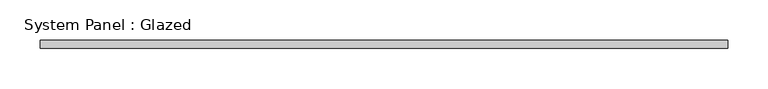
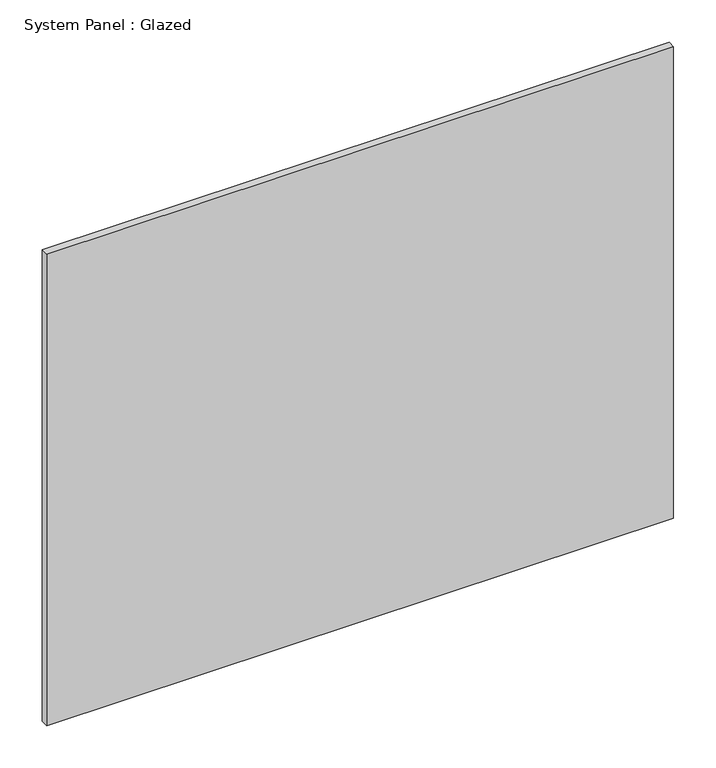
"""IFC4 building model written with IfcOpenShell, lengths in millimetres: plate geometry, System Panel : Glazed."""

from ifc_helpers import new_model, si_unit, origin, origin_with_axes, place, context, project, spatial, polyline, outline, extrude, source, transform, mapped, element, save


def system_panel_glazed_db34575f(model_context):
    return source(origin(), model_context, "Body", "SweptSolid", [
        extrude(outline(polyline([(427.5, -5.0), (-427.5, -5.0), (-427.5, 5.0), (427.5, 5.0), (427.5, -5.0)])), origin_with_axes(), (0.0, 0.0, 1.0), 680.0),
    ])


if __name__ == "__main__":
    model = new_model("IFC4")
    model_context = context("Model", 3, world=origin())
    ifc_project = project(units=[si_unit("LENGTHUNIT", "METRE", prefix="MILLI")], contexts=[model_context])
    site = spatial("IfcSite", under=ifc_project)
    building = spatial("IfcBuilding", under=site)
    placement = place(None, origin())
    system_panel_glazed_shape = system_panel_glazed_db34575f(model_context)
    element("IfcPlate", 1, ObjectType="System Panel : Glazed", at=placement, inside=building, context=model_context, shape_type="MappedRepresentation", body=[
        mapped(system_panel_glazed_shape, transform((0.0, 0.0, 0.0), x_axis=(1.0, 0.0, 0.0), y_axis=(0.0, 1.0, 0.0), z_axis=(0.0, 0.0, 1.0))),
    ])
    save(model, "model.ifc")
